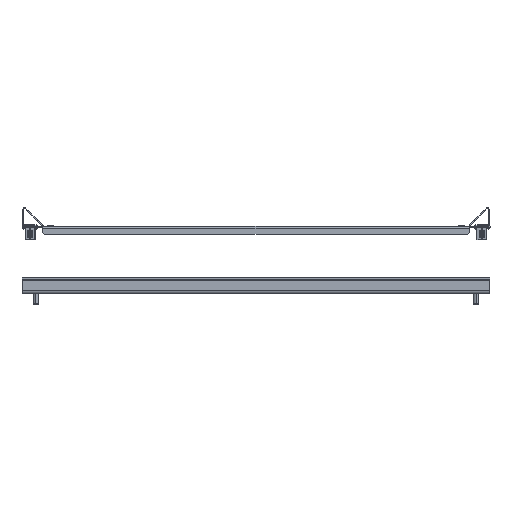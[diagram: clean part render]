
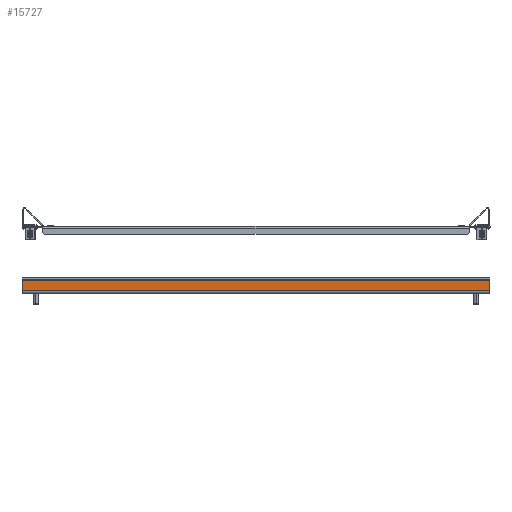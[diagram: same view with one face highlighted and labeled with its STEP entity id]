
A CAD part, front view. The second image highlights one B-rep face of the part: STEP entity #15727.
In plain terms, the highlighted planar face has unit normal (0, -1, 0).
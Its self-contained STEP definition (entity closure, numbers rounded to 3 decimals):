
#226 = CARTESIAN_POINT ( 'NONE',  ( 225., -13.5, 12.5 ) ) ;
#1477 = LINE ( 'NONE', #20310, #11733 ) ;
#2335 = DIRECTION ( 'NONE',  ( -1., 0., 0. ) ) ;
#2406 = ORIENTED_EDGE ( 'NONE', *, *, #20832, .F. ) ;
#2928 = VECTOR ( 'NONE', #21560, 1000. ) ;
#3333 = VECTOR ( 'NONE', #2335, 1000. ) ;
#3699 = LINE ( 'NONE', #12249, #3333 ) ;
#4406 = PLANE ( 'NONE',  #17436 ) ;
#7480 = CARTESIAN_POINT ( 'NONE',  ( -225., -13.5, 2.5 ) ) ;
#7494 = VECTOR ( 'NONE', #9025, 1000. ) ;
#8287 = ORIENTED_EDGE ( 'NONE', *, *, #18379, .T. ) ;
#8429 = EDGE_CURVE ( 'NONE', #19569, #21271, #3699, .T. ) ;
#8952 = EDGE_CURVE ( 'NONE', #19569, #13361, #14693, .T. ) ;
#9025 = DIRECTION ( 'NONE',  ( -1., 0., 0. ) ) ;
#9063 = EDGE_LOOP ( 'NONE', ( #8287, #2406, #13977, #18348 ) ) ;
#9134 = LINE ( 'NONE', #19286, #7494 ) ;
#9256 = CARTESIAN_POINT ( 'NONE',  ( 225., -13.5, 2.5 ) ) ;
#11280 = DIRECTION ( 'NONE',  ( 0., 1., 0. ) ) ;
#11733 = VECTOR ( 'NONE', #22206, 1000. ) ;
#12249 = CARTESIAN_POINT ( 'NONE',  ( 225., -13.5, 12.5 ) ) ;
#12787 = CARTESIAN_POINT ( 'NONE',  ( 225., -13.5, 2.5 ) ) ;
#13361 = VERTEX_POINT ( 'NONE', #12787 ) ;
#13977 = ORIENTED_EDGE ( 'NONE', *, *, #8952, .F. ) ;
#14693 = LINE ( 'NONE', #21220, #2928 ) ;
#15028 = VERTEX_POINT ( 'NONE', #7480 ) ;
#15727 = ADVANCED_FACE ( 'NONE', ( #19846 ), #4406, .F. ) ;
#17436 = AXIS2_PLACEMENT_3D ( 'NONE', #9256, #11280, #17700 ) ;
#17700 = DIRECTION ( 'NONE',  ( 0., 0., 1. ) ) ;
#18348 = ORIENTED_EDGE ( 'NONE', *, *, #8429, .T. ) ;
#18379 = EDGE_CURVE ( 'NONE', #21271, #15028, #1477, .T. ) ;
#19258 = CARTESIAN_POINT ( 'NONE',  ( -225., -13.5, 12.5 ) ) ;
#19286 = CARTESIAN_POINT ( 'NONE',  ( 225., -13.5, 2.5 ) ) ;
#19569 = VERTEX_POINT ( 'NONE', #226 ) ;
#19846 = FACE_OUTER_BOUND ( 'NONE', #9063, .T. ) ;
#20310 = CARTESIAN_POINT ( 'NONE',  ( -225., -13.5, 2.5 ) ) ;
#20832 = EDGE_CURVE ( 'NONE', #13361, #15028, #9134, .T. ) ;
#21220 = CARTESIAN_POINT ( 'NONE',  ( 225., -13.5, 2.5 ) ) ;
#21271 = VERTEX_POINT ( 'NONE', #19258 ) ;
#21560 = DIRECTION ( 'NONE',  ( 0., 0., -1. ) ) ;
#22206 = DIRECTION ( 'NONE',  ( 0., 0., -1. ) ) ;
